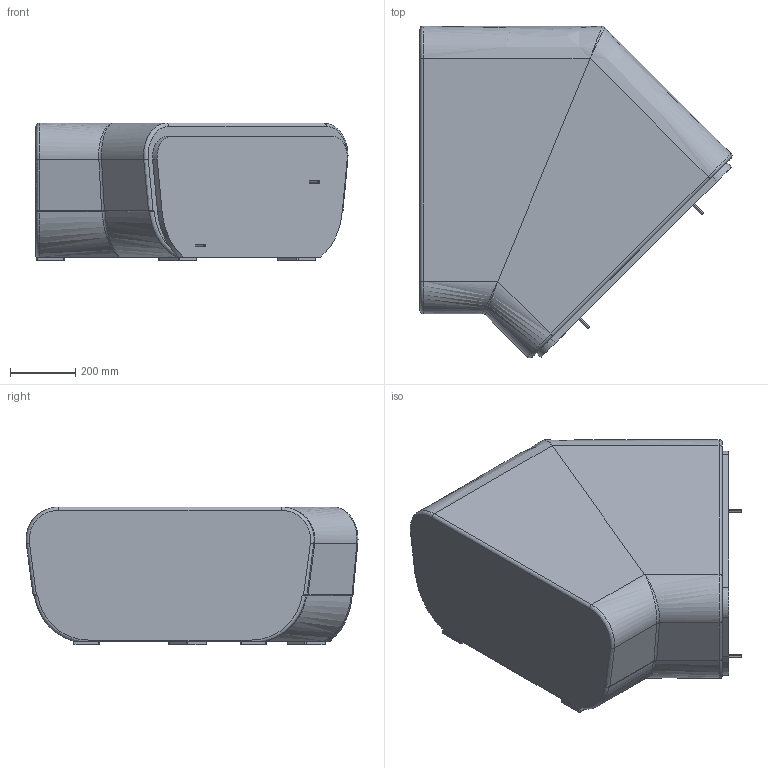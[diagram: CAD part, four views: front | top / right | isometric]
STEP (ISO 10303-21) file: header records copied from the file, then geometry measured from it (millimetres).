
FILE_DESCRIPTION(/* description */ (''),/* implementation_level */ '2;1');
FILE_NAME(/* name */ 'OP3509~1',/* time_stamp */ '2015-09-28T22:23:36+02:00',/* author */ (''),/* organization */ (''),/* preprocessor_version */ 'ST-DEVELOPER v15',/* originating_system */ '',/* authorisation */ '');
FILE_SCHEMA (('AUTOMOTIVE_DESIGN'));
Length unit declared in the file: millimetre
Products named in the file (1): Document
Bounding box: 959.61 x 1021.08 x 424 mm (x, y, z)
Volume: 6081539 mm3; surface area: 3138919.9 mm2
Topology: 7 solids, 11 shells, 115 faces, 292 edges, 194 vertices
Faces by surface type: bspline 88, plane 27
Entity records: 4058 total; most frequent: CARTESIAN_POINT 2377, ORIENTED_EDGE 514, EDGE_CURVE 287, VERTEX_POINT 190, ADVANCED_FACE 115, FACE_OUTER_BOUND 115, EDGE_LOOP 115, B_SPLINE_CURVE_WITH_KNOTS 78
